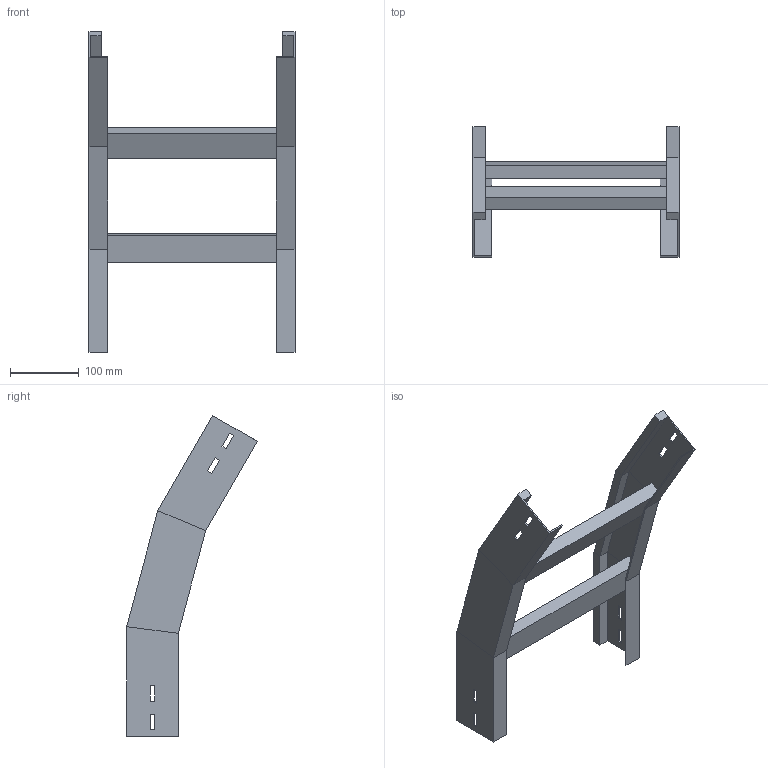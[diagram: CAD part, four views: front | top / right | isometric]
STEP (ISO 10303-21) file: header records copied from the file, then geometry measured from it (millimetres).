
FILE_DESCRIPTION (( 'STEP AP214' ), '1' );
FILE_NAME ('A2_35B3C300.step', '2025-02-21T14:49:50', ( '' ), ( '' ), 'SwSTEP 2.0', 'SolidWorks 2023', '' );
FILE_SCHEMA (( 'AUTOMOTIVE_DESIGN' ));
Length unit declared in the file: millimetre
Products named in the file (3): A2_35B3C300; LONGH.DISCESA_30°_H75_R300; TRAVERSINO_300
Assembly tree (5 placements, depth 2):
  A2_35B3C300
    LONGH.DISCESA_30°_H75_R300  x2
    TRAVERSINO_300  x3
Bounding box: 300 x 190.12 x 467.12 mm (x, y, z)
Volume: 1093466.1 mm3; surface area: 335560.5 mm2
Topology: 5 solids, 5 shells, 102 faces, 244 edges, 152 vertices
Faces by surface type: plane 102
Entity records: 1480 total; most frequent: CARTESIAN_POINT 244, ORIENTED_EDGE 232, DIRECTION 228, VECTOR 116, LINE 116, EDGE_CURVE 116, VERTEX_POINT 72, EDGE_LOOP 56
